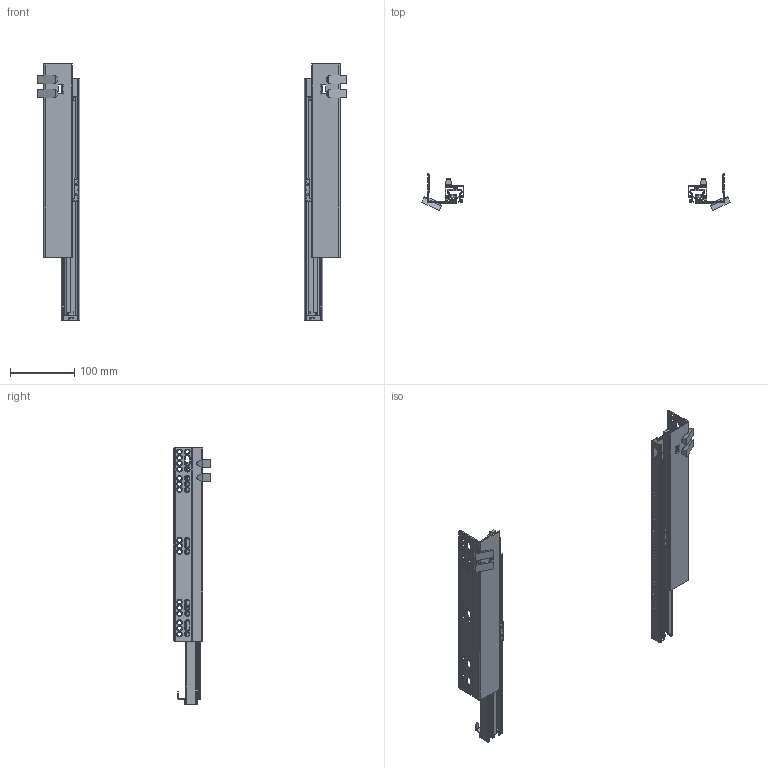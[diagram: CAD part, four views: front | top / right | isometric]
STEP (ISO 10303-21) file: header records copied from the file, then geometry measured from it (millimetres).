
FILE_DESCRIPTION (( 'STEP AP203' ), '1' );
FILE_NAME ('728MCFH(19)-390-TM 客人用图.STEP', '2021-02-24T06:22:02', ( '微软用户' ), ( '微软中国' ), 'SwSTEP 2.0', 'SolidWorks 2014', '' );
FILE_SCHEMA (( 'CONFIG_CONTROL_DESIGN' ));
Length unit declared in the file: millimetre
Products named in the file (17): 728CFH-400-R  中轨（右）客人用图; 728 笢寢爾え; 728CFH(19)-400 固定轨（右）客人参考用; 728CFH-400-ZG-R  中轨组件（右） 客人用图; 噩砃728 笢寢爾え; 镜向728CFH(19)-400 固定轨（右）客人参考用; 镜向728MCFH（16）-390-HDG-R  活动轨（右） 客人用图; 728MCFH(19)-390-TM  客人用图; 镜向708-1 尾勾（常规三节轨用）; 镜向728CFH-400-ZG-R  中轨组件（右） 客人用图; 镜向728-2 活动轨挡位焊片（无把手有把手通用）; 728MCFH（16）-390-HDG-R  活动轨（右） 客人用图; 镜向728MCFH(16)-390-HDG-R 活动轨组件（右）客人用图; 708-1 尾勾（常规三节轨用）; 镜向728CFH-400-R  中轨（右）客人用图; 728-2 活动轨挡位焊片（无把手有把手通用）; 728MCFH(16)-390-HDG-R 活动轨组件（右）客人用图
Assembly tree (16 placements, depth 3):
  728MCFH(19)-390-TM  客人用图
    728CFH(19)-400 固定轨（右）客人参考用
    728MCFH(16)-390-HDG-R 活动轨组件（右）客人用图
      728MCFH（16）-390-HDG-R  活动轨（右） 客人用图
      708-1 尾勾（常规三节轨用）
      728-2 活动轨挡位焊片（无把手有把手通用）
    728CFH-400-ZG-R  中轨组件（右） 客人用图
      728CFH-400-R  中轨（右）客人用图
      728 笢寢爾え
    镜向728CFH(19)-400 固定轨（右）客人参考用
    镜向728MCFH(16)-390-HDG-R 活动轨组件（右）客人用图
      镜向728MCFH（16）-390-HDG-R  活动轨（右） 客人用图
      镜向708-1 尾勾（常规三节轨用）
      镜向728-2 活动轨挡位焊片（无把手有把手通用）
    镜向728CFH-400-ZG-R  中轨组件（右） 客人用图
      镜向728CFH-400-R  中轨（右）客人用图
      噩砃728 笢寢爾え
Bounding box: 478.47 x 57.88 x 397.4 mm (x, y, z)
Volume: 236835.7 mm3; surface area: 331922.3 mm2
Topology: 16 solids, 16 shells, 1770 faces, 4502 edges, 2838 vertices
Faces by surface type: plane 850, cylinder 626, cone 252, bspline 38, torus 4
Entity records: 57123 total; most frequent: CARTESIAN_POINT 11403, DIRECTION 9444, ORIENTED_EDGE 9004, EDGE_CURVE 4502, AXIS2_PLACEMENT_3D 3329, VERTEX_POINT 2838, VECTOR 2786, LINE 2786
